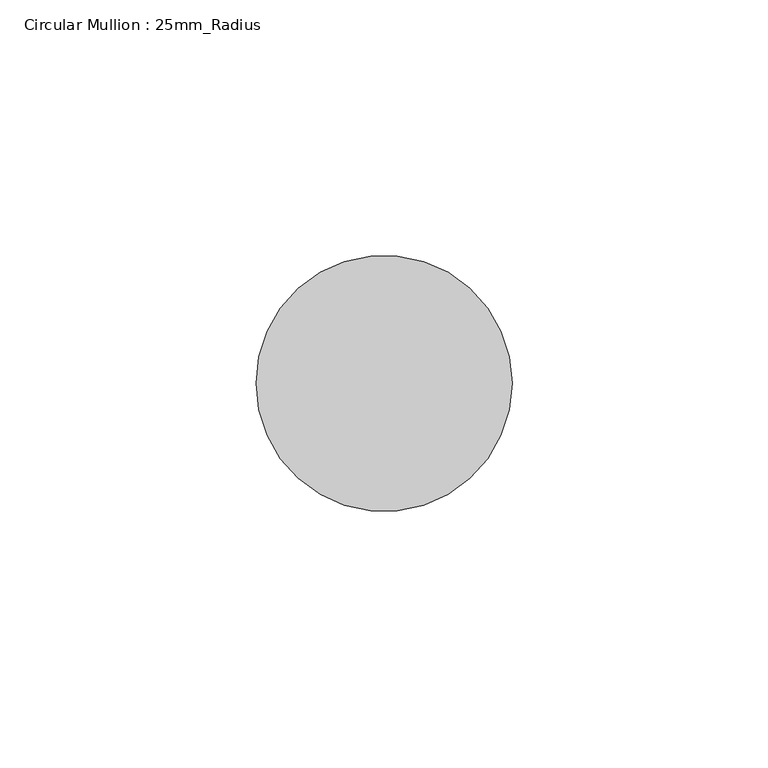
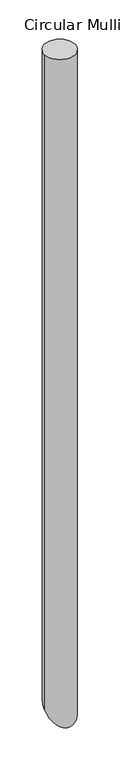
"""IFC4 building model written with IfcOpenShell, lengths in millimetres: member geometry, Circular Mullion : 25mm_Radius."""

from ifc_helpers import new_model, si_unit, frame, origin, place, context, project, spatial, circle_curve, ellipse_curve, source, transform, mapped, element, save
from ifc_brep_helpers import plane_surface, cylinder_surface, advanced_brep


def circular_mullion_25mm_radius_c704e2b4(model_context):
    return source(origin(), model_context, "Body", "AdvancedBrep", [
        advanced_brep(
        [(0.0, 0.0, 0.0), (-50.0, 0.0, 0.0), (0.0, 0.0, -1123.9983348), (-50.0, 0.0, -1123.9983348)],
        [
            (0, 1, circle_curve(frame((-25.0, 0.0, 0.0), z_axis=(0.0, 0.0, 1.0), x_axis=(1.0, 0.0, 0.0)), 25.0)),
            (1, 0, circle_curve(frame((-25.0, 0.0, 0.0), z_axis=(0.0, 0.0, 1.0), x_axis=(1.0, 0.0, 0.0)), 25.0)),
            (0, 2),
            (2, 3, ellipse_curve(frame((-25.0, 0.0, -1123.9983348), z_axis=(0.0, -0.7071067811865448, 0.7071067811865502), x_axis=(0.0, 0.7071067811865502, 0.7071067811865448)), 35.3553391, 25.0)),
            (3, 1),
            (3, 2, ellipse_curve(frame((-25.0, 0.0, -1123.9983348), z_axis=(0.0, -0.7071067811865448, 0.7071067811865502), x_axis=(0.0, 0.7071067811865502, 0.7071067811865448)), 35.3553391, 25.0)),
        ],
        [
            plane_surface(frame((0.0, -50.0, 0.0), z_axis=(0.0, 0.0, 1.0), x_axis=(-1.0, 0.0, 0.0))),
            cylinder_surface(frame((-25.0, 0.0, 0.0), z_axis=(0.0, 0.0, 1.0), x_axis=(1.0, 0.0, 0.0)), 25.0),
            plane_surface(frame((-304.8, 0.0, -1123.9983348), z_axis=(0.0, 0.7071067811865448, -0.7071067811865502), x_axis=(0.0, 0.7071067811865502, 0.7071067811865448))),
        ],
        [
            (0, [[1, 2]]),
            (1, [[-1, 3, 4, 5]]),
            (1, [[-2, -5, 6, -3]]),
            (2, [[-6, -4]]),
        ],
    ),
    ])


if __name__ == "__main__":
    model = new_model("IFC4")
    model_context = context("Model", 3, world=origin())
    ifc_project = project(units=[si_unit("LENGTHUNIT", "METRE", prefix="MILLI")], contexts=[model_context])
    site = spatial("IfcSite", under=ifc_project)
    building = spatial("IfcBuilding", under=site)
    placement = place(None, origin())
    circular_mullion_25mm_radius_shape = circular_mullion_25mm_radius_c704e2b4(model_context)
    element("IfcMember", 1, ObjectType="Circular Mullion : 25mm_Radius", at=placement, inside=building, context=model_context, shape_type="MappedRepresentation", body=[
        mapped(circular_mullion_25mm_radius_shape, transform((0.0, 0.0, 0.0), x_axis=(1.0, 0.0, 0.0), y_axis=(0.0, 1.0, 0.0), z_axis=(0.0, 0.0, 1.0))),
    ])
    save(model, "model.ifc")
